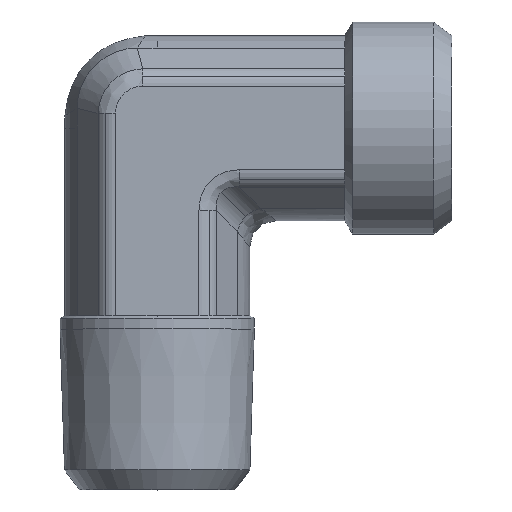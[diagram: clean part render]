
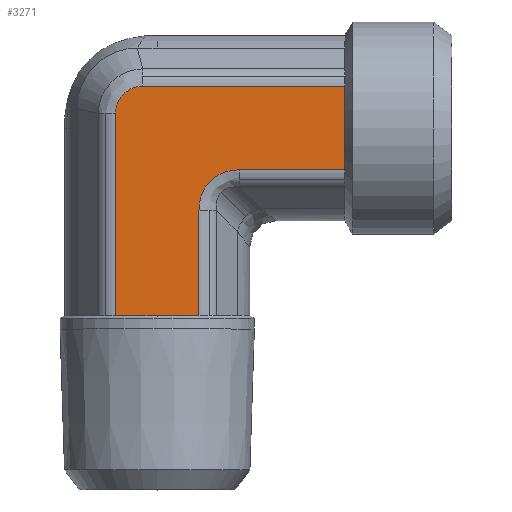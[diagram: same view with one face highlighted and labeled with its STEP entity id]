
A CAD part, top view. The second image highlights one B-rep face of the part: STEP entity #3271.
In plain terms, the highlighted planar face has unit normal (0, 0, 1) as drawn and (0, -1, 0) by its records, which use the part's own axes.
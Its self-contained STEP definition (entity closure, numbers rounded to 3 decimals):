
#361=CARTESIAN_POINT('',(1.649,-6.9,3.118));
#362=VERTEX_POINT('',#361);
#370=CARTESIAN_POINT('',(9.5,-6.9,3.118));
#371=VERTEX_POINT('',#370);
#372=CARTESIAN_POINT('',(1.649,-6.9,3.118));
#373=DIRECTION('',(1.0,0.0,0.0));
#374=VECTOR('',#373,7.851);
#375=LINE('',#372,#374);
#376=EDGE_CURVE('',#362,#371,#375,.T.);
#485=CARTESIAN_POINT('',(-7.618,-6.9,-1.091));
#486=VERTEX_POINT('',#485);
#494=CARTESIAN_POINT('',(-7.618,-6.9,14.0));
#495=VERTEX_POINT('',#494);
#496=CARTESIAN_POINT('',(-7.618,-6.9,-1.091));
#497=DIRECTION('',(0.0,0.0,1.0));
#498=VECTOR('',#497,15.091);
#499=LINE('',#496,#498);
#500=EDGE_CURVE('',#486,#495,#499,.T.);
#753=CARTESIAN_POINT('',(9.5,-6.9,0.));
#754=VERTEX_POINT('',#753);
#2227=CARTESIAN_POINT('',(-4.5,-6.9,14.0));
#2228=VERTEX_POINT('',#2227);
#2289=CARTESIAN_POINT('',(-4.5,-6.9,14.0));
#2290=DIRECTION('',(-1.0,0.0,0.0));
#2291=VECTOR('',#2290,3.118);
#2292=LINE('',#2289,#2291);
#2293=EDGE_CURVE('',#2228,#495,#2292,.T.);
#2366=CARTESIAN_POINT('',(-1.382,-6.9,14.0));
#2367=VERTEX_POINT('',#2366);
#2368=CARTESIAN_POINT('',(-1.382,-6.9,14.0));
#2369=DIRECTION('',(-1.0,0.0,0.0));
#2370=VECTOR('',#2369,3.118);
#2371=LINE('',#2368,#2370);
#2372=EDGE_CURVE('',#2367,#2228,#2371,.T.);
#2470=CARTESIAN_POINT('',(9.5,-6.9,-3.118));
#2471=VERTEX_POINT('',#2470);
#2472=CARTESIAN_POINT('',(9.5,-6.9,-3.118));
#2473=DIRECTION('',(0.0,0.0,1.0));
#2474=VECTOR('',#2473,3.118);
#2475=LINE('',#2472,#2474);
#2476=EDGE_CURVE('',#2471,#754,#2475,.T.);
#2494=CARTESIAN_POINT('',(9.5,-6.9,0.));
#2495=DIRECTION('',(0.0,0.0,1.0));
#2496=VECTOR('',#2495,3.118);
#2497=LINE('',#2494,#2496);
#2498=EDGE_CURVE('',#754,#371,#2497,.T.);
#2955=CARTESIAN_POINT('',(-5.591,-6.9,-3.118));
#2956=VERTEX_POINT('',#2955);
#2964=CARTESIAN_POINT('',(-7.618,-6.9,-1.091));
#2965=CARTESIAN_POINT('',(-7.618,-6.9,-1.223));
#2966=CARTESIAN_POINT('',(-7.605,-6.9,-1.356));
#2967=CARTESIAN_POINT('',(-7.536,-6.9,-1.695));
#2968=CARTESIAN_POINT('',(-7.462,-6.9,-1.896));
#2969=CARTESIAN_POINT('',(-7.191,-6.9,-2.378));
#2970=CARTESIAN_POINT('',(-6.949,-6.9,-2.631));
#2971=CARTESIAN_POINT('',(-6.339,-6.9,-3.011));
#2972=CARTESIAN_POINT('',(-5.965,-6.9,-3.118));
#2973=CARTESIAN_POINT('',(-5.591,-6.9,-3.118));
#2974=B_SPLINE_CURVE_WITH_KNOTS('',3,(#2964,#2965,#2966,#2967,#2968,#2969,#2970,#2971,#2972,#2973),.UNSPECIFIED.,.F.,.U.,(4,2,2,2,4),(-3.166,-2.771,-2.137,-1.124,0.0),.UNSPECIFIED.);
#2975=EDGE_CURVE('',#2956,#486,#2974,.F.);
#3002=CARTESIAN_POINT('',(9.5,-6.9,-3.118));
#3003=DIRECTION('',(-1.0,0.0,0.0));
#3004=VECTOR('',#3003,15.091);
#3005=LINE('',#3002,#3004);
#3006=EDGE_CURVE('',#2471,#2956,#3005,.T.);
#3138=CARTESIAN_POINT('',(-1.382,-6.9,6.149));
#3139=VERTEX_POINT('',#3138);
#3140=CARTESIAN_POINT('',(-1.382,-6.9,14.0));
#3141=DIRECTION('',(0.0,0.0,-1.0));
#3142=VECTOR('',#3141,7.851);
#3143=LINE('',#3140,#3142);
#3144=EDGE_CURVE('',#2367,#3139,#3143,.T.);
#3227=CARTESIAN_POINT('',(2.659,-6.9,7.159));
#3228=DIRECTION('',(0.,-1.,0.));
#3229=DIRECTION('',(-0.707,0.,-0.707));
#3230=AXIS2_PLACEMENT_3D('',#3227,#3228,#3229);
#3231=ELLIPSE('',#3230,4.518,3.5);
#3232=EDGE_CURVE('',#3139,#362,#3231,.T.);
#3254=CARTESIAN_POINT('',(-4.5,-6.9,-3.175));
#3255=DIRECTION('',(0.0,-1.0,0.0));
#3256=DIRECTION('',(0.0,0.0,-1.0));
#3257=AXIS2_PLACEMENT_3D('',#3254,#3255,#3256);
#3258=PLANE('',#3257);
#3259=ORIENTED_EDGE('',*,*,#3006,.F.);
#3260=ORIENTED_EDGE('',*,*,#2476,.T.);
#3261=ORIENTED_EDGE('',*,*,#2498,.T.);
#3262=ORIENTED_EDGE('',*,*,#376,.F.);
#3263=ORIENTED_EDGE('',*,*,#3232,.F.);
#3264=ORIENTED_EDGE('',*,*,#3144,.F.);
#3265=ORIENTED_EDGE('',*,*,#2372,.T.);
#3266=ORIENTED_EDGE('',*,*,#2293,.T.);
#3267=ORIENTED_EDGE('',*,*,#500,.F.);
#3268=ORIENTED_EDGE('',*,*,#2975,.F.);
#3269=EDGE_LOOP('',(#3259,#3260,#3261,#3262,#3263,#3264,#3265,#3266,#3267,#3268));
#3270=FACE_OUTER_BOUND('',#3269,.T.);
#3271=ADVANCED_FACE('',(#3270),#3258,.T.);
